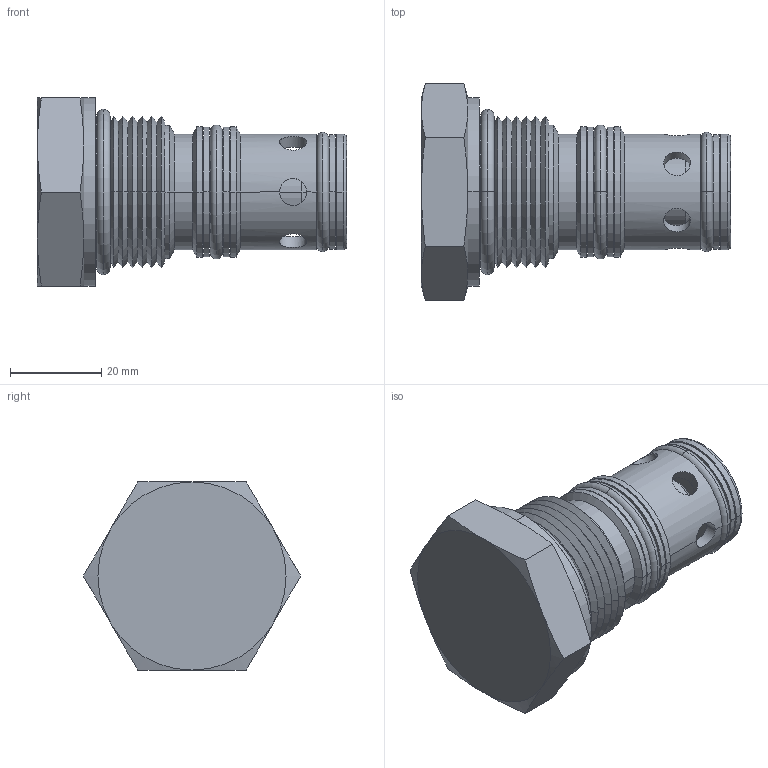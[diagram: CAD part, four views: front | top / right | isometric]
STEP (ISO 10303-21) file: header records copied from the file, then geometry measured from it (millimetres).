
FILE_DESCRIPTION((''),'2;1');
FILE_NAME('U:\Solid model CD\Solid model full\Mechanical\STEP\SLCPD00-3D Full.stp','2008-07-29T10:01:47',('Dan'),(''),'Autodesk Inventor 9','Autodesk Inventor 9','');
FILE_SCHEMA(('AUTOMOTIVE_DESIGN { 1 0 10303 214 1 1 1 1 }'));
Length unit declared in the file: inch
Products named in the file (8): SLCPD00-3D Full; SLCPD00-3D Full1; SLCPD00-3D Full2; SLCPD00-3D Full3; SLCPD00-3D Full4; SLCPD00-3D Full5; SLCPD00-3D Full6; SLCPD00-3D Full7
Assembly tree (7 placements, depth 2):
  SLCPD00-3D Full
    SLCPD00-3D Full1
    SLCPD00-3D Full2
    SLCPD00-3D Full3
    SLCPD00-3D Full4
    SLCPD00-3D Full5
    SLCPD00-3D Full6
    SLCPD00-3D Full7
Bounding box: 67.82 x 47.66 x 41.27 mm (x, y, z)
Volume: 49713.2 mm3; surface area: 16385 mm2
Topology: 7 solids, 7 shells, 150 faces, 360 edges, 210 vertices
Faces by surface type: cylinder 56, cone 48, plane 24, torus 14, bspline 8
Entity records: 5207 total; most frequent: CARTESIAN_POINT 1602, DIRECTION 780, ORIENTED_EDGE 688, EDGE_CURVE 344, AXIS2_PLACEMENT_3D 340, VERTEX_POINT 202, CIRCLE 183, EDGE_LOOP 170
